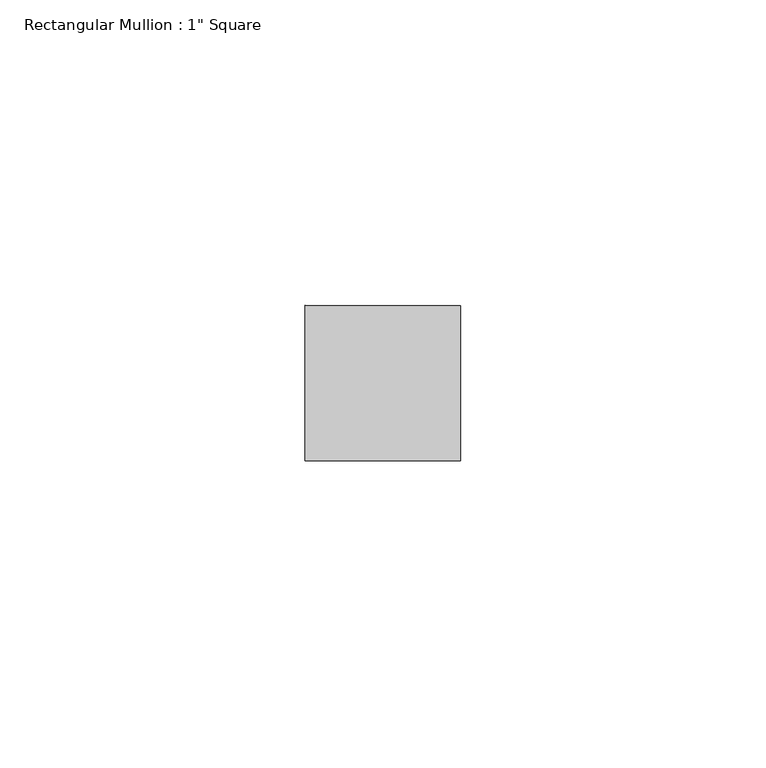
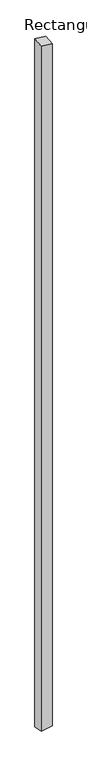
"""IFC4 building model written with IfcOpenShell, lengths in millimetres: member geometry."""

from ifc_helpers import new_model, si_unit, origin, place, context, project, spatial, faceted_brep, source, transform, mapped, element, save


def member_8f3ebbc6(model_context):
    return source(origin(), model_context, "Body", "Brep", [
        faceted_brep([(-12.7, 12.7, 3.4464375), (12.7, 12.7, 0.3515513), (12.7, 12.7, -1690.0606024), (-12.7, 12.7, -1693.9521363), (-12.7, -12.7, -0.3515513), (-12.7, -12.7, -1689.1765158), (12.7, -12.7, -3.4464375), (12.7, -12.7, -1685.2849818)], [[[0, 1, 2, 3]], [[4, 0, 3, 5]], [[6, 4, 5, 7]], [[1, 6, 7, 2]], [[1, 0, 4, 6]], [[2, 7, 5, 3]]]),
    ])


if __name__ == "__main__":
    model = new_model("IFC4")
    model_context = context("Model", 3, world=origin())
    ifc_project = project(units=[si_unit("LENGTHUNIT", "METRE", prefix="MILLI")], contexts=[model_context])
    site = spatial("IfcSite", under=ifc_project)
    building = spatial("IfcBuilding", under=site)
    placement = place(None, origin())
    member_shape = member_8f3ebbc6(model_context)
    element("IfcMember", 1, ObjectType="Rectangular Mullion : 1\" Square", at=placement, inside=building, context=model_context, shape_type="MappedRepresentation", body=[
        mapped(member_shape, transform((0.0, 0.0, 0.0), x_axis=(1.0, 0.0, 0.0), y_axis=(0.0, 1.0, 0.0), z_axis=(0.0, 0.0, 1.0))),
    ])
    save(model, "model.ifc")
